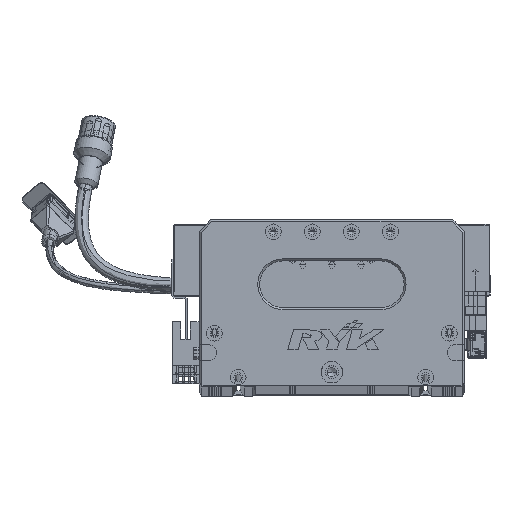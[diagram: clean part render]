
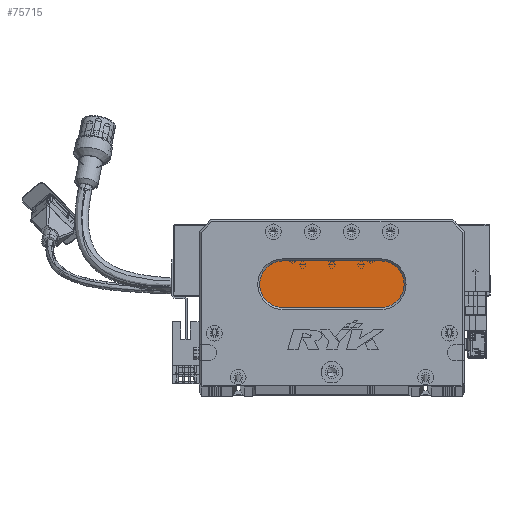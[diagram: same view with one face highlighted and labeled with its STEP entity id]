
A CAD part, top view. The second image highlights one B-rep face of the part: STEP entity #75715.
In plain terms, the highlighted planar face has unit normal (0, 0, 1) as drawn and (0, 0, -1) by its records, which use the part's own axes.
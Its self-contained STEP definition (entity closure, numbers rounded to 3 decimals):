
#114 = VERTEX_POINT ( 'NONE', #120234 ) ;
#1004 = CARTESIAN_POINT ( 'NONE',  ( 93., 40., 13. ) ) ;
#1063 = DIRECTION ( 'NONE',  ( 0., 0., -1. ) ) ;
#1583 = CARTESIAN_POINT ( 'NONE',  ( 43., 40., 13. ) ) ;
#1886 = EDGE_LOOP ( 'NONE', ( #25620, #92450, #45635, #129449, #61029 ) ) ;
#2854 = CARTESIAN_POINT ( 'NONE',  ( 93., 64., 13. ) ) ;
#5151 = EDGE_CURVE ( 'NONE', #114, #112247, #14142, .T. ) ;
#7463 = DIRECTION ( 'NONE',  ( -1., 0., 0. ) ) ;
#8999 = AXIS2_PLACEMENT_3D ( 'NONE', #80574, #1063, #101412 ) ;
#11082 = CARTESIAN_POINT ( 'NONE',  ( 93., 40., 13. ) ) ;
#12095 = EDGE_CURVE ( 'NONE', #30894, #19145, #81085, .T. ) ;
#14142 = LINE ( 'NONE', #2854, #92001 ) ;
#14807 = DIRECTION ( 'NONE',  ( 0., 0., -1. ) ) ;
#15951 = DIRECTION ( 'NONE',  ( -1., 0., 0. ) ) ;
#19145 = VERTEX_POINT ( 'NONE', #1583 ) ;
#23039 = CIRCLE ( 'NONE', #8999, 12. ) ;
#23247 = DIRECTION ( 'NONE',  ( 1., 0., 0. ) ) ;
#25620 = ORIENTED_EDGE ( 'NONE', *, *, #100382, .T. ) ;
#27845 = PLANE ( 'NONE',  #73917 ) ;
#30731 = DIRECTION ( 'NONE',  ( -1., 0., 0. ) ) ;
#30894 = VERTEX_POINT ( 'NONE', #11082 ) ;
#40580 = VERTEX_POINT ( 'NONE', #54022 ) ;
#41287 = EDGE_CURVE ( 'NONE', #19145, #40580, #128597, .T. ) ;
#42583 = FACE_OUTER_BOUND ( 'NONE', #1886, .T. ) ;
#45635 = ORIENTED_EDGE ( 'NONE', *, *, #41287, .T. ) ;
#54022 = CARTESIAN_POINT ( 'NONE',  ( 31., 52., 13. ) ) ;
#56933 = DIRECTION ( 'NONE',  ( -1., 0., 0. ) ) ;
#58516 = DIRECTION ( 'NONE',  ( 0., 0., -1. ) ) ;
#60426 = VECTOR ( 'NONE', #30731, 1000. ) ;
#61029 = ORIENTED_EDGE ( 'NONE', *, *, #5151, .T. ) ;
#73917 = AXIS2_PLACEMENT_3D ( 'NONE', #127840, #87878, #15951 ) ;
#74115 = CIRCLE ( 'NONE', #102981, 12. ) ;
#75715 = ADVANCED_FACE ( 'NONE', ( #42583 ), #27845, .T. ) ;
#79860 = CARTESIAN_POINT ( 'NONE',  ( 93., 52., 13. ) ) ;
#80574 = CARTESIAN_POINT ( 'NONE',  ( 43., 52., 13. ) ) ;
#81085 = LINE ( 'NONE', #1004, #60426 ) ;
#85191 = AXIS2_PLACEMENT_3D ( 'NONE', #127574, #14807, #56933 ) ;
#87878 = DIRECTION ( 'NONE',  ( 0., 0., -1. ) ) ;
#92001 = VECTOR ( 'NONE', #23247, 1000. ) ;
#92450 = ORIENTED_EDGE ( 'NONE', *, *, #12095, .T. ) ;
#100382 = EDGE_CURVE ( 'NONE', #112247, #30894, #74115, .T. ) ;
#101412 = DIRECTION ( 'NONE',  ( -1., 0., 0. ) ) ;
#102981 = AXIS2_PLACEMENT_3D ( 'NONE', #79860, #58516, #7463 ) ;
#106313 = EDGE_CURVE ( 'NONE', #40580, #114, #23039, .T. ) ;
#112247 = VERTEX_POINT ( 'NONE', #126239 ) ;
#120234 = CARTESIAN_POINT ( 'NONE',  ( 43., 64., 13. ) ) ;
#126239 = CARTESIAN_POINT ( 'NONE',  ( 93., 64., 13. ) ) ;
#127574 = CARTESIAN_POINT ( 'NONE',  ( 43., 52., 13. ) ) ;
#127840 = CARTESIAN_POINT ( 'NONE',  ( 93., 52., 13. ) ) ;
#128597 = CIRCLE ( 'NONE', #85191, 12. ) ;
#129449 = ORIENTED_EDGE ( 'NONE', *, *, #106313, .T. ) ;
